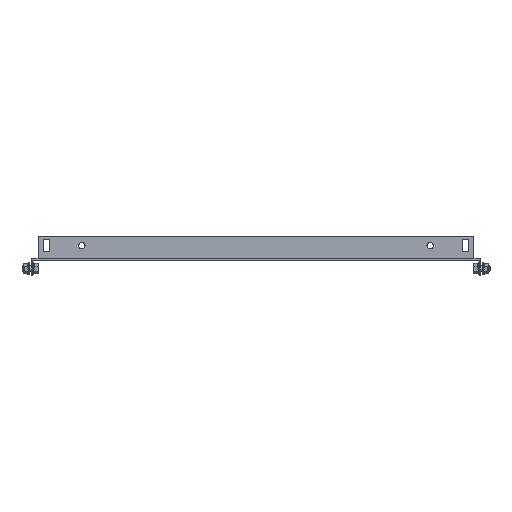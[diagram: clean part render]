
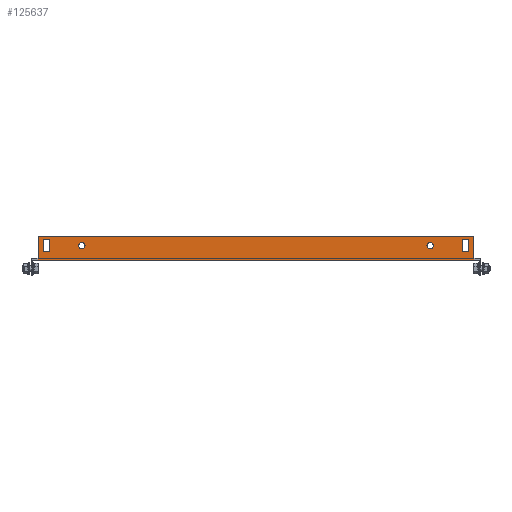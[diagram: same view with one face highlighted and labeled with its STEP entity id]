
A CAD part, front view. The second image highlights one B-rep face of the part: STEP entity #125637.
In plain terms, the highlighted planar face has unit normal (0, -1, 0).
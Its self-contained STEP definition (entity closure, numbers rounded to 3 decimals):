
#116002 = VERTEX_POINT('',#116003);
#116003 = CARTESIAN_POINT('',(242.,-484.5,0.));
#116009 = EDGE_CURVE('',#116010,#116002,#116012,.T.);
#116010 = VERTEX_POINT('',#116011);
#116011 = CARTESIAN_POINT('',(-242.,-484.5,0.));
#116012 = LINE('',#116013,#116014);
#116013 = CARTESIAN_POINT('',(-242.,-484.5,0.));
#116014 = VECTOR('',#116015,1.);
#116015 = DIRECTION('',(1.,-0.,-0.));
#125516 = VERTEX_POINT('',#125517);
#125517 = CARTESIAN_POINT('',(-242.,-484.5,2.6));
#125532 = EDGE_CURVE('',#125516,#116010,#125533,.T.);
#125533 = LINE('',#125534,#125535);
#125534 = CARTESIAN_POINT('',(-242.,-484.5,2.6));
#125535 = VECTOR('',#125536,1.);
#125536 = DIRECTION('',(0.,0.,-1.));
#125556 = VERTEX_POINT('',#125557);
#125557 = CARTESIAN_POINT('',(242.,-484.5,2.6));
#125563 = EDGE_CURVE('',#125556,#116002,#125564,.T.);
#125564 = LINE('',#125565,#125566);
#125565 = CARTESIAN_POINT('',(242.,-484.5,2.));
#125566 = VECTOR('',#125567,1.);
#125567 = DIRECTION('',(-0.,0.,-1.));
#125589 = VERTEX_POINT('',#125590);
#125590 = CARTESIAN_POINT('',(242.,-484.5,26.));
#125596 = EDGE_CURVE('',#125556,#125589,#125597,.T.);
#125597 = LINE('',#125598,#125599);
#125598 = CARTESIAN_POINT('',(242.,-484.5,26.));
#125599 = VECTOR('',#125600,1.);
#125600 = DIRECTION('',(-0.,0.,1.));
#125611 = EDGE_CURVE('',#125612,#125516,#125614,.T.);
#125612 = VERTEX_POINT('',#125613);
#125613 = CARTESIAN_POINT('',(-242.,-484.5,26.));
#125614 = LINE('',#125615,#125616);
#125615 = CARTESIAN_POINT('',(-242.,-484.5,2.));
#125616 = VECTOR('',#125617,1.);
#125617 = DIRECTION('',(-0.,0.,-1.));
#125637 = ADVANCED_FACE('',(#125638,#125672,#125683,#125694,#125728),
  #125741,.F.);
#125638 = FACE_BOUND('',#125639,.T.);
#125639 = EDGE_LOOP('',(#125640,#125650,#125658,#125666));
#125640 = ORIENTED_EDGE('',*,*,#125641,.F.);
#125641 = EDGE_CURVE('',#125642,#125644,#125646,.T.);
#125642 = VERTEX_POINT('',#125643);
#125643 = CARTESIAN_POINT('',(236.5,-484.5,9.));
#125644 = VERTEX_POINT('',#125645);
#125645 = CARTESIAN_POINT('',(236.5,-484.5,23.));
#125646 = LINE('',#125647,#125648);
#125647 = CARTESIAN_POINT('',(236.5,-484.5,23.));
#125648 = VECTOR('',#125649,1.);
#125649 = DIRECTION('',(-0.,-0.,1.));
#125650 = ORIENTED_EDGE('',*,*,#125651,.F.);
#125651 = EDGE_CURVE('',#125652,#125642,#125654,.T.);
#125652 = VERTEX_POINT('',#125653);
#125653 = CARTESIAN_POINT('',(229.5,-484.5,9.));
#125654 = LINE('',#125655,#125656);
#125655 = CARTESIAN_POINT('',(236.5,-484.5,9.));
#125656 = VECTOR('',#125657,1.);
#125657 = DIRECTION('',(1.,-0.,-0.));
#125658 = ORIENTED_EDGE('',*,*,#125659,.F.);
#125659 = EDGE_CURVE('',#125660,#125652,#125662,.T.);
#125660 = VERTEX_POINT('',#125661);
#125661 = CARTESIAN_POINT('',(229.5,-484.5,23.));
#125662 = LINE('',#125663,#125664);
#125663 = CARTESIAN_POINT('',(229.5,-484.5,9.));
#125664 = VECTOR('',#125665,1.);
#125665 = DIRECTION('',(0.,-0.,-1.));
#125666 = ORIENTED_EDGE('',*,*,#125667,.F.);
#125667 = EDGE_CURVE('',#125644,#125660,#125668,.T.);
#125668 = LINE('',#125669,#125670);
#125669 = CARTESIAN_POINT('',(229.5,-484.5,23.));
#125670 = VECTOR('',#125671,1.);
#125671 = DIRECTION('',(-1.,-0.,-0.));
#125672 = FACE_BOUND('',#125673,.T.);
#125673 = EDGE_LOOP('',(#125674));
#125674 = ORIENTED_EDGE('',*,*,#125675,.F.);
#125675 = EDGE_CURVE('',#125676,#125676,#125678,.T.);
#125676 = VERTEX_POINT('',#125677);
#125677 = CARTESIAN_POINT('',(193.5,-484.5,19.5));
#125678 = CIRCLE('',#125679,3.5);
#125679 = AXIS2_PLACEMENT_3D('',#125680,#125681,#125682);
#125680 = CARTESIAN_POINT('',(193.5,-484.5,16.));
#125681 = DIRECTION('',(0.,-1.,0.));
#125682 = DIRECTION('',(0.,0.,1.));
#125683 = FACE_BOUND('',#125684,.T.);
#125684 = EDGE_LOOP('',(#125685));
#125685 = ORIENTED_EDGE('',*,*,#125686,.F.);
#125686 = EDGE_CURVE('',#125687,#125687,#125689,.T.);
#125687 = VERTEX_POINT('',#125688);
#125688 = CARTESIAN_POINT('',(-193.5,-484.5,12.5));
#125689 = CIRCLE('',#125690,3.5);
#125690 = AXIS2_PLACEMENT_3D('',#125691,#125692,#125693);
#125691 = CARTESIAN_POINT('',(-193.5,-484.5,16.));
#125692 = DIRECTION('',(0.,-1.,0.));
#125693 = DIRECTION('',(0.,0.,-1.));
#125694 = FACE_BOUND('',#125695,.T.);
#125695 = EDGE_LOOP('',(#125696,#125706,#125714,#125722));
#125696 = ORIENTED_EDGE('',*,*,#125697,.F.);
#125697 = EDGE_CURVE('',#125698,#125700,#125702,.T.);
#125698 = VERTEX_POINT('',#125699);
#125699 = CARTESIAN_POINT('',(-236.5,-484.5,23.));
#125700 = VERTEX_POINT('',#125701);
#125701 = CARTESIAN_POINT('',(-236.5,-484.5,9.));
#125702 = LINE('',#125703,#125704);
#125703 = CARTESIAN_POINT('',(-236.5,-484.5,9.));
#125704 = VECTOR('',#125705,1.);
#125705 = DIRECTION('',(-0.,-0.,-1.));
#125706 = ORIENTED_EDGE('',*,*,#125707,.F.);
#125707 = EDGE_CURVE('',#125708,#125698,#125710,.T.);
#125708 = VERTEX_POINT('',#125709);
#125709 = CARTESIAN_POINT('',(-229.5,-484.5,23.));
#125710 = LINE('',#125711,#125712);
#125711 = CARTESIAN_POINT('',(-236.5,-484.5,23.));
#125712 = VECTOR('',#125713,1.);
#125713 = DIRECTION('',(-1.,-0.,-0.));
#125714 = ORIENTED_EDGE('',*,*,#125715,.F.);
#125715 = EDGE_CURVE('',#125716,#125708,#125718,.T.);
#125716 = VERTEX_POINT('',#125717);
#125717 = CARTESIAN_POINT('',(-229.5,-484.5,9.));
#125718 = LINE('',#125719,#125720);
#125719 = CARTESIAN_POINT('',(-229.5,-484.5,23.));
#125720 = VECTOR('',#125721,1.);
#125721 = DIRECTION('',(-0.,-0.,1.));
#125722 = ORIENTED_EDGE('',*,*,#125723,.F.);
#125723 = EDGE_CURVE('',#125700,#125716,#125724,.T.);
#125724 = LINE('',#125725,#125726);
#125725 = CARTESIAN_POINT('',(-229.5,-484.5,9.));
#125726 = VECTOR('',#125727,1.);
#125727 = DIRECTION('',(1.,-0.,-0.));
#125728 = FACE_BOUND('',#125729,.T.);
#125729 = EDGE_LOOP('',(#125730,#125731,#125732,#125733,#125734,#125735)
  );
#125730 = ORIENTED_EDGE('',*,*,#125611,.T.);
#125731 = ORIENTED_EDGE('',*,*,#125532,.T.);
#125732 = ORIENTED_EDGE('',*,*,#116009,.T.);
#125733 = ORIENTED_EDGE('',*,*,#125563,.F.);
#125734 = ORIENTED_EDGE('',*,*,#125596,.T.);
#125735 = ORIENTED_EDGE('',*,*,#125736,.T.);
#125736 = EDGE_CURVE('',#125589,#125612,#125737,.T.);
#125737 = LINE('',#125738,#125739);
#125738 = CARTESIAN_POINT('',(-242.,-484.5,26.));
#125739 = VECTOR('',#125740,1.);
#125740 = DIRECTION('',(-1.,-0.,-0.));
#125741 = PLANE('',#125742);
#125742 = AXIS2_PLACEMENT_3D('',#125743,#125744,#125745);
#125743 = CARTESIAN_POINT('',(242.,-484.5,2.));
#125744 = DIRECTION('',(-0.,1.,0.));
#125745 = DIRECTION('',(0.,0.,1.));
